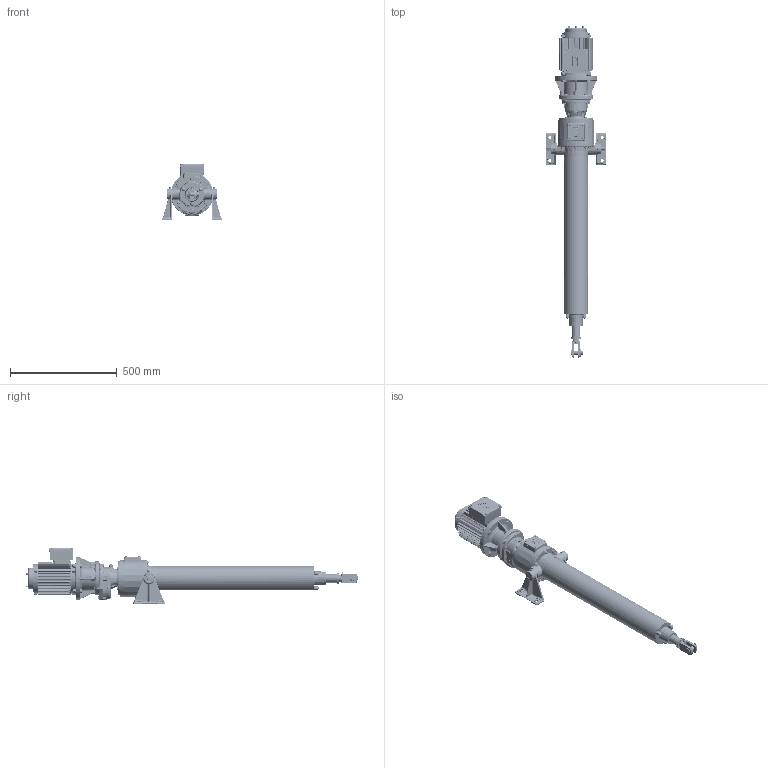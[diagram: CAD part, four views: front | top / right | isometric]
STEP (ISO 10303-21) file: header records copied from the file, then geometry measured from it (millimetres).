
FILE_DESCRIPTION( ( '153-599-4' ), '1' );
FILE_NAME( '//TOMOKO/Katalogbilder/RBs rendern/austausch pomplun/mit identnr/T1M5-0600-160-237-3.stp', 'Unknown', ( 'Christoph Hahmann' ), ( 'RACO-ELEKTRO-MASCHINEN GmbH' ), 'PSStep 17.0.49', 'Solid Edge ST 7', ' ' );
FILE_SCHEMA( ( 'AUTOMOTIVE_DESIGN { 1 0 10303 214 1 1 1 1 }' ) );
Length unit declared in the file: millimetre
Products named in the file (11): Assem1; 03.01-05; 02.14-05-0600; 01.15-05-0600; 02.01-05 kpl; 01.01-05-Gabelkopf; 04.01-05-7-117; 10.02-04-08 105-983-12; 105-238-1 kpl; 03.65-05 kpl; BGR 5
Assembly tree (10 placements, depth 2):
  Assem1
    03.01-05
    02.14-05-0600
    01.15-05-0600
    02.01-05 kpl
    01.01-05-Gabelkopf
    04.01-05-7-117
    10.02-04-08 105-983-12
    105-238-1 kpl
    03.65-05 kpl
    BGR 5
Bounding box: 284 x 1556.48 x 261.5 mm (x, y, z)
Surface area: 1773041.4 mm2 (no closed solid volume)
Topology: 0 solids, 8506 shells, 8506 faces, 42518 edges, 41060 vertices
Faces by surface type: plane 3886, cylinder 2065, bspline 854, cone 635, torus 630, extrusion 226, sphere 210
Full cylindrical faces by diameter (mm): 1.6 x2, 2 x1, 2.459 x12, 2.8 x2, 3 x4, 3.242 x16, 4 x3, 4.019 x6, 4.02 x4, 4.134 x28, 4.5 x2, 4.6 x2, 4.65 x4, 4.773 x7, 4.917 x1, 5 x37, 5.3 x3, 5.4 x4, 5.5 x8, 5.7 x7, 5.8 x6, 6 x17, 6.47 x8, 6.6 x11, 6.8 x4, 6.917 x2, 7.33 x1, 7.5 x3, 8 x34, 8.15 x1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
Entity records: 603950 total; most frequent: CARTESIAN_POINT 230400, DIRECTION 64856, VERTEX_POINT 40537, ORIENTED_EDGE 40480, EDGE_CURVE 40480, AXIS2_PLACEMENT_3D 23203, VECTOR 18450, LINE 18224
